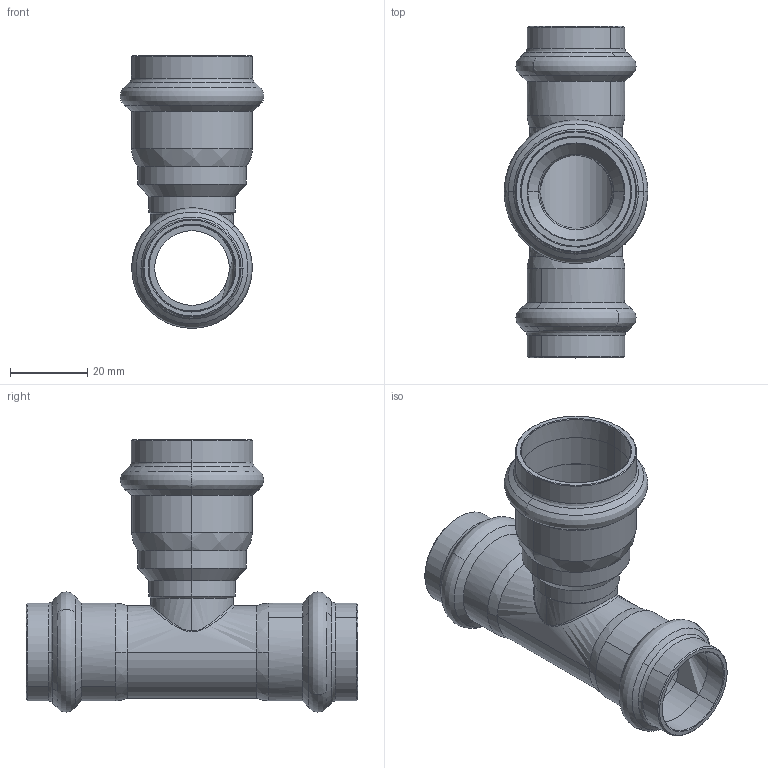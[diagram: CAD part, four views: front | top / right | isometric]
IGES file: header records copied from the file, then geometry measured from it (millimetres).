
Start section: Elysium IGES Interface
Global section: file name: C:\3d modellen sudo\C-Pr VP\SP8130RV\8130RVW222822.igs; native system: CoCreate Modeling 17.00A  17-Jun-2010; preprocessor: CoCreate IGES_3D V2.2; author: Unknown; organization: Unknown; date: 20130131.143744; units: millimetre
Bounding box: 37.2 x 86.01 x 70.59 mm (x, y, z)
Volume: 19556.6 mm3; surface area: 21754.8 mm2
Topology: 1 solids, 1 shells, 131 faces, 314 edges, 188 vertices
Faces by surface type: bspline 131
